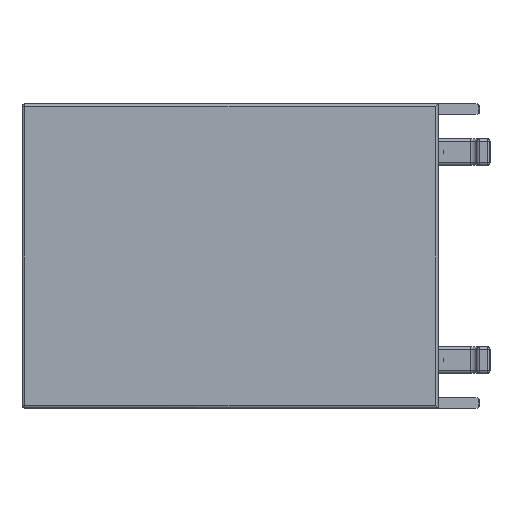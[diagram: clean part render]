
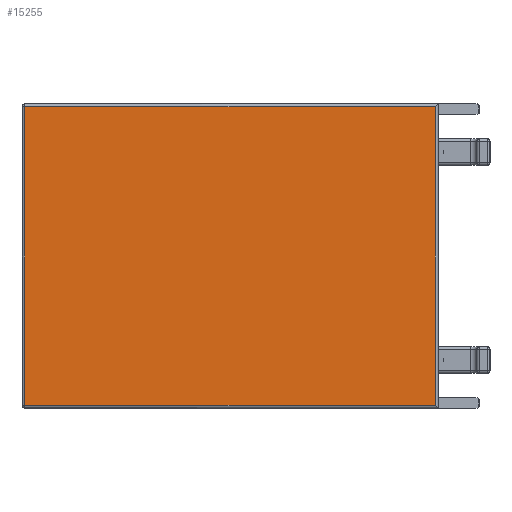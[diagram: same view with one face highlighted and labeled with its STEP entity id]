
A CAD part, left-side view. The second image highlights one B-rep face of the part: STEP entity #15255.
In plain terms, the highlighted planar face has unit normal (-1, 0, 0).
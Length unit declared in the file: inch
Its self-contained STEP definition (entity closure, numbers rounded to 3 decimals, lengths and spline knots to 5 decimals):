
#2727 = DIRECTION ( 'NONE',  ( 0., -1., 0. ) ) ;
#2728 = DIRECTION ( 'NONE',  ( -1., 0., 0. ) ) ;
#2730 = CARTESIAN_POINT ( 'NONE',  ( -0.3937, 0., 0.11516 ) ) ;
#2731 = AXIS2_PLACEMENT_3D ( 'NONE', #2730, #2728, #2727 ) ;
#2733 = FACE_OUTER_BOUND ( 'NONE', #4000, .T. ) ;
#2739 = PLANE ( 'NONE',  #2731 ) ;
#2751 = CARTESIAN_POINT ( 'NONE',  ( -0.39366, 0.31299, 0.11315 ) ) ;
#2753 = CARTESIAN_POINT ( 'NONE',  ( -0.39366, 0.31299, -0.11315 ) ) ;
#2754 = DIRECTION ( 'NONE',  ( 0., 1., 0. ) ) ;
#2755 = VECTOR ( 'NONE', #2754, 39.37008 ) ;
#2756 = CARTESIAN_POINT ( 'NONE',  ( -0.3937, 0., 0.11319 ) ) ;
#2757 = LINE ( 'NONE', #2756, #2755 ) ;
#2758 = DIRECTION ( 'NONE',  ( 0., 0., 1. ) ) ;
#2759 = VECTOR ( 'NONE', #2758, 39.37008 ) ;
#2760 = CARTESIAN_POINT ( 'NONE',  ( -0.3937, 0.00197, 0.11516 ) ) ;
#2761 = LINE ( 'NONE', #2760, #2759 ) ;
#2762 = CARTESIAN_POINT ( 'NONE',  ( -0.3937, 0.00197, 0.11319 ) ) ;
#2763 = DIRECTION ( 'NONE',  ( 0., -1., 0. ) ) ;
#2764 = VECTOR ( 'NONE', #2763, 39.37008 ) ;
#2765 = CARTESIAN_POINT ( 'NONE',  ( -0.3937, 0.00003, -0.11319 ) ) ;
#2766 = LINE ( 'NONE', #2765, #2764 ) ;
#2767 = CARTESIAN_POINT ( 'NONE',  ( -0.3937, 0.00197, -0.11319 ) ) ;
#3997 = ORIENTED_EDGE ( 'NONE', *, *, #4078, .T. ) ;
#4000 = EDGE_LOOP ( 'NONE', ( #3997, #15275, #15279, #15284 ) ) ;
#4078 = EDGE_CURVE ( 'NONE', #15290, #15285, #10948, .T. ) ;
#10947 = CARTESIAN_POINT ( 'NONE',  ( -0.39366, 0.31299, -0.11512 ) ) ;
#10948 = LINE ( 'NONE', #10947, #11012 ) ;
#11011 = DIRECTION ( 'NONE',  ( 0., 0., -1. ) ) ;
#11012 = VECTOR ( 'NONE', #11011, 39.37008 ) ;
#15255 = ADVANCED_FACE ( 'NONE', ( #2733 ), #2739, .T. ) ;
#15275 = ORIENTED_EDGE ( 'NONE', *, *, #15277, .T. ) ;
#15276 = VERTEX_POINT ( 'NONE', #2767 ) ;
#15277 = EDGE_CURVE ( 'NONE', #15285, #15276, #2766, .T. ) ;
#15279 = ORIENTED_EDGE ( 'NONE', *, *, #15282, .T. ) ;
#15280 = VERTEX_POINT ( 'NONE', #2762 ) ;
#15282 = EDGE_CURVE ( 'NONE', #15276, #15280, #2761, .T. ) ;
#15283 = EDGE_CURVE ( 'NONE', #15280, #15290, #2757, .T. ) ;
#15284 = ORIENTED_EDGE ( 'NONE', *, *, #15283, .T. ) ;
#15285 = VERTEX_POINT ( 'NONE', #2753 ) ;
#15290 = VERTEX_POINT ( 'NONE', #2751 ) ;
